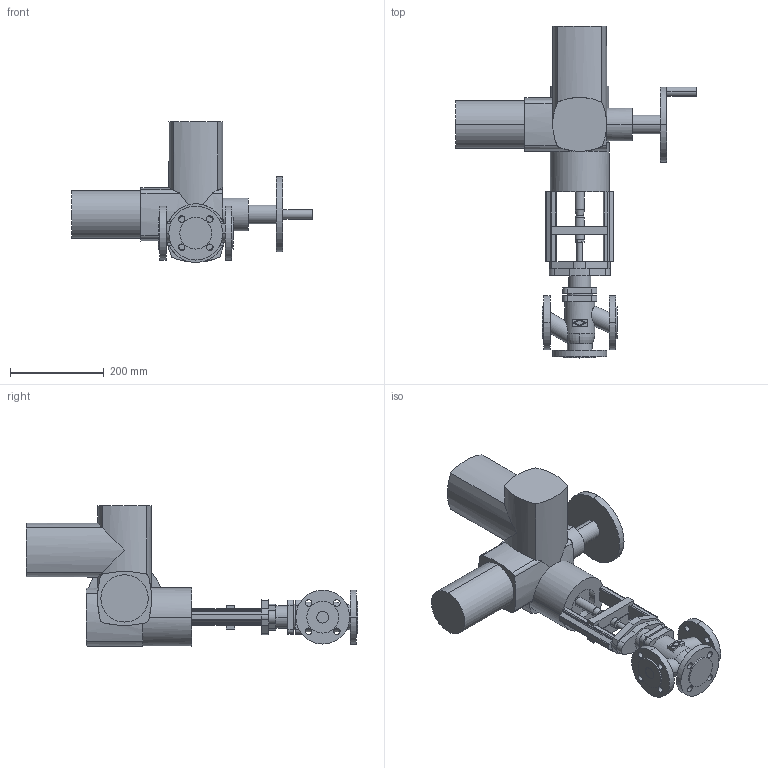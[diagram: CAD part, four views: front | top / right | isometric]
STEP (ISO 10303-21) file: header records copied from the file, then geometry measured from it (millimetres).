
FILE_DESCRIPTION(('Creo Elements/Direct Modeling STEP Export'),'2;1');
FILE_NAME('c000004991.stp','2012-07-02T11:12:04',(''),(''),'Creo Elements/Direct Modeling STEP processor for AP214 (Solid Model)','Creo Elements/Direct Modeling 17.0D 15-Jul-2011 (C) Parametric Technology GmbH','');
FILE_SCHEMA(('AUTOMOTIVE_DESIGN { 1 0 10303 214 1 1 1 1 }'));
Length unit declared in the file: millimetre
Products named in the file (2): 1; 2
Bounding box: 514 x 708 x 300.39 mm (x, y, z)
Volume: 10812539.1 mm3; surface area: 616065 mm2
Topology: 2 solids, 2 shells, 276 faces, 718 edges, 464 vertices
Faces by surface type: cylinder 137, plane 133, cone 4, torus 2
Entity records: 8709 total; most frequent: CARTESIAN_POINT 1949, ORIENTED_EDGE 1436, DIRECTION 1347, EDGE_CURVE 718, AXIS2_PLACEMENT_3D 476, VERTEX_POINT 464, VECTOR 395, LINE 395
